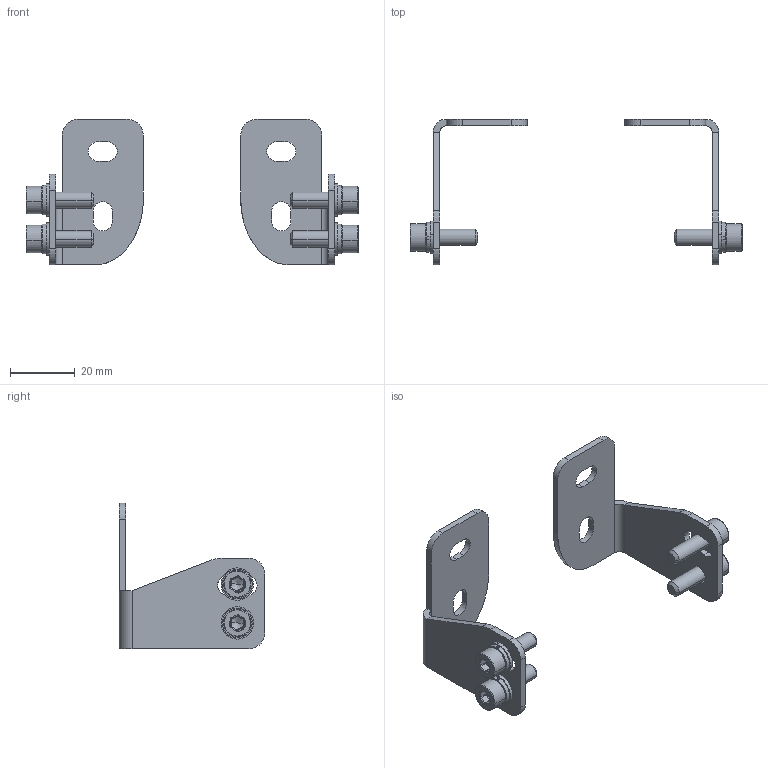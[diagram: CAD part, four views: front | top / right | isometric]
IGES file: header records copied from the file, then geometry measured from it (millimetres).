
Start section: SolidWorks IGES file using analytic representation for surfaces
Global section: file name: C:\Users\User\Desktop\Àêñåññóàðû Outliner S\Êðîíøòåéí Outliner S ïîòîëî÷íûé.IGS; native system: SolidWorks 2020; preprocessor: SolidWorks 2020; author: User; date: 231115.182131; units: millimetre
Bounding box: 102.55 x 45 x 45 mm (x, y, z)
Volume: 10456.3 mm3; surface area: 12478.2 mm2
Topology: 14 solids, 14 shells, 336 faces, 784 edges, 436 vertices
Faces by surface type: revolution 214, plane 96, bspline 26
